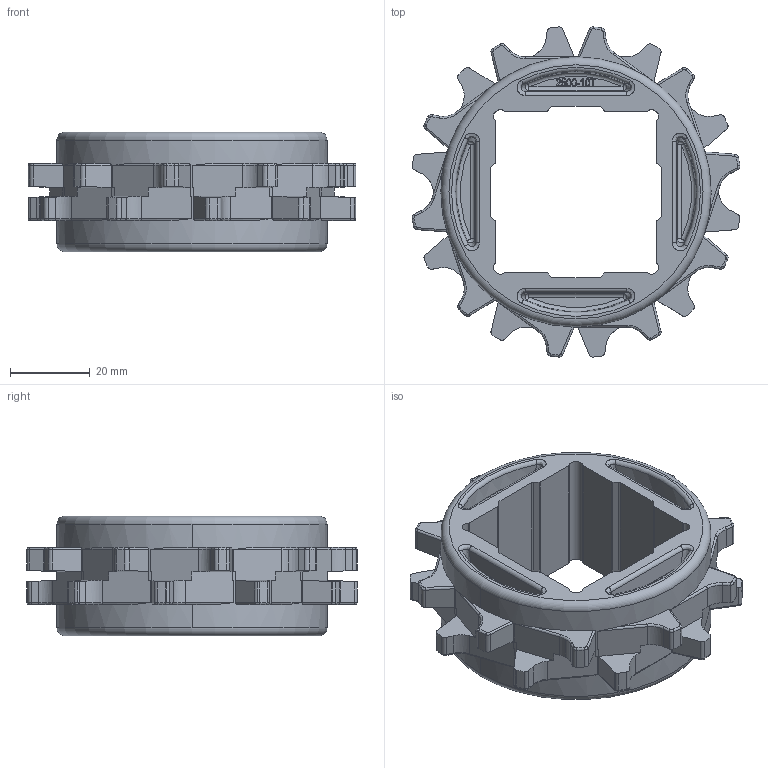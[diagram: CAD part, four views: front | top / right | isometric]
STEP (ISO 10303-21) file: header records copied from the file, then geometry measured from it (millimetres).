
FILE_DESCRIPTION(/* description */ (''),/* implementation_level */ '2;1');
FILE_NAME(/* name */ 'HS-2500A-10T.stp',/* time_stamp */ '2024-01-23T09:06:10+08:00',/* author */ (''),/* organization */ (''),/* preprocessor_version */ 'ST-DEVELOPER v15',/* originating_system */ 'SIEMENS PLM Software NX 8.5',/* authorisation */ '');
FILE_SCHEMA (('AP203_CONFIGURATION_CONTROLLED_3D_DESIGN_OF_MECHANICAL_PARTS_AND_ASSEMBLIES_MIM_LF { 1 0 10303 403 2 1 2}'));
Length unit declared in the file: millimetre
Products named in the file (1): Admi6FD4E3A0g4n8
Bounding box: 82.15 x 82.73 x 30 mm (x, y, z)
Volume: 58813.8 mm3; surface area: 20162.5 mm2
Topology: 1 solids, 1 shells, 567 faces, 1443 edges, 882 vertices
Faces by surface type: plane 197, cylinder 196, bspline 72, torus 58, extrusion 20, sphere 16, cone 8
Entity records: 19760 total; most frequent: CARTESIAN_POINT 6252, ORIENTED_EDGE 2850, DIRECTION 2815, EDGE_CURVE 1425, AXIS2_PLACEMENT_3D 1074, VERTEX_POINT 882, VECTOR 667, LINE 647
